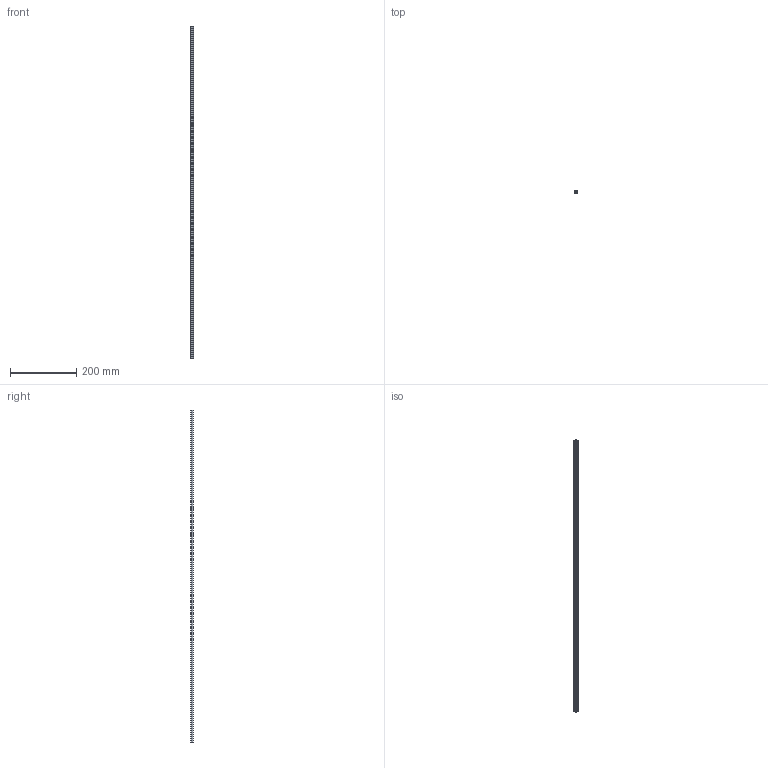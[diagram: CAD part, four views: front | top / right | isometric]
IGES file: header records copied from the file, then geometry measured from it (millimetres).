
Start section: SolidWorks IGES file using analytic representation for surfaces
Global section: file name: C:\Documents and Settings\Administrator\デスクトップ\指定保存後3回目\SolidWorks\SF\SF30\Parts\SFA-104.IGS; native system: SolidWorks 2006 by SolidWorks Corporation; preprocessor: SolidWorks 2006 by SolidWorks Corporation; author: Administrator; date: 061213.105206; units: millimetre
Bounding box: 9.08 x 9 x 1000 mm (x, y, z)
Surface area: 51459.3 mm2 (no closed solid volume)
Topology: 0 solids, 0 shells, 32 faces, 344 edges, 434 vertices
Faces by surface type: bspline 20, revolution 12
